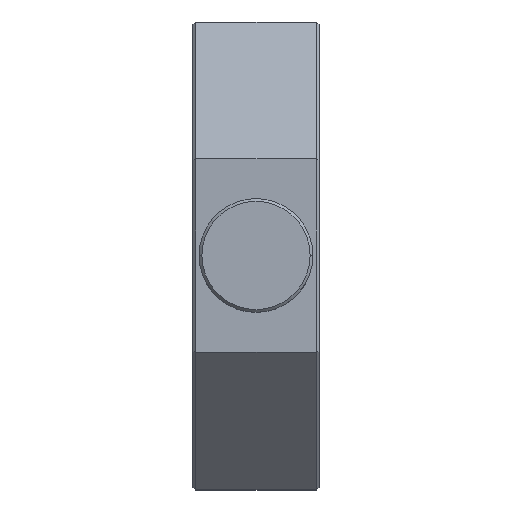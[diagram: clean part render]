
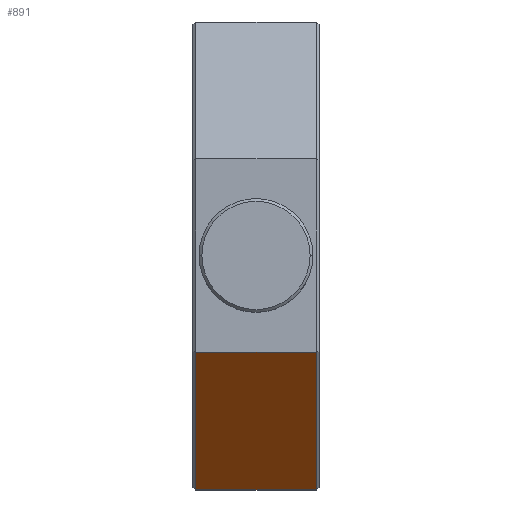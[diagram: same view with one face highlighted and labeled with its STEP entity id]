
A CAD part, top view. The second image highlights one B-rep face of the part: STEP entity #891.
In plain terms, the highlighted planar face has unit normal (0, -0.707, 0.707).
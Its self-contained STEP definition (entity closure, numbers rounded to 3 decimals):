
#77 = CARTESIAN_POINT ( 'NONE',  ( 23.917, -92.501, 38.315 ) ) ;
#201 = VECTOR ( 'NONE', #2235, 1000. ) ;
#232 = CARTESIAN_POINT ( 'NONE',  ( -23.917, -92.501, 38.315 ) ) ;
#301 = VECTOR ( 'NONE', #2126, 1000. ) ;
#319 = VERTEX_POINT ( 'NONE', #77 ) ;
#327 = DIRECTION ( 'NONE',  ( 0., -0.707, 0.707 ) ) ;
#345 = CARTESIAN_POINT ( 'NONE',  ( -23.917, -92.501, 38.315 ) ) ;
#374 = CARTESIAN_POINT ( 'NONE',  ( -25., -92.501, 38.315 ) ) ;
#426 = EDGE_CURVE ( 'NONE', #2383, #656, #669, .T. ) ;
#430 = CARTESIAN_POINT ( 'NONE',  ( -23.917, -38.315, 92.501 ) ) ;
#656 = VERTEX_POINT ( 'NONE', #345 ) ;
#669 = LINE ( 'NONE', #232, #2621 ) ;
#683 = EDGE_CURVE ( 'NONE', #319, #1892, #1312, .T. ) ;
#748 = FACE_OUTER_BOUND ( 'NONE', #2874, .T. ) ;
#784 = LINE ( 'NONE', #374, #805 ) ;
#805 = VECTOR ( 'NONE', #2386, 1000. ) ;
#891 = ADVANCED_FACE ( 'NONE', ( #748 ), #2375, .T. ) ;
#961 = ORIENTED_EDGE ( 'NONE', *, *, #1571, .F. ) ;
#997 = CARTESIAN_POINT ( 'NONE',  ( -25., -38.315, 92.501 ) ) ;
#1265 = AXIS2_PLACEMENT_3D ( 'NONE', #997, #327, #2568 ) ;
#1312 = LINE ( 'NONE', #1499, #201 ) ;
#1400 = ORIENTED_EDGE ( 'NONE', *, *, #683, .T. ) ;
#1495 = ORIENTED_EDGE ( 'NONE', *, *, #2210, .T. ) ;
#1499 = CARTESIAN_POINT ( 'NONE',  ( 23.917, -38.315, 92.501 ) ) ;
#1571 = EDGE_CURVE ( 'NONE', #2383, #1892, #2788, .T. ) ;
#1590 = DIRECTION ( 'NONE',  ( 0., -0.707, -0.707 ) ) ;
#1892 = VERTEX_POINT ( 'NONE', #2736 ) ;
#1904 = CARTESIAN_POINT ( 'NONE',  ( -25., -38.315, 92.501 ) ) ;
#1932 = ORIENTED_EDGE ( 'NONE', *, *, #426, .T. ) ;
#2126 = DIRECTION ( 'NONE',  ( 1., 0., 0. ) ) ;
#2210 = EDGE_CURVE ( 'NONE', #656, #319, #784, .T. ) ;
#2235 = DIRECTION ( 'NONE',  ( 0., 0.707, 0.707 ) ) ;
#2375 = PLANE ( 'NONE',  #1265 ) ;
#2383 = VERTEX_POINT ( 'NONE', #430 ) ;
#2386 = DIRECTION ( 'NONE',  ( 1., 0., 0. ) ) ;
#2568 = DIRECTION ( 'NONE',  ( 0., -0.707, -0.707 ) ) ;
#2621 = VECTOR ( 'NONE', #1590, 1000. ) ;
#2736 = CARTESIAN_POINT ( 'NONE',  ( 23.917, -38.315, 92.501 ) ) ;
#2788 = LINE ( 'NONE', #1904, #301 ) ;
#2874 = EDGE_LOOP ( 'NONE', ( #1495, #1400, #961, #1932 ) ) ;
